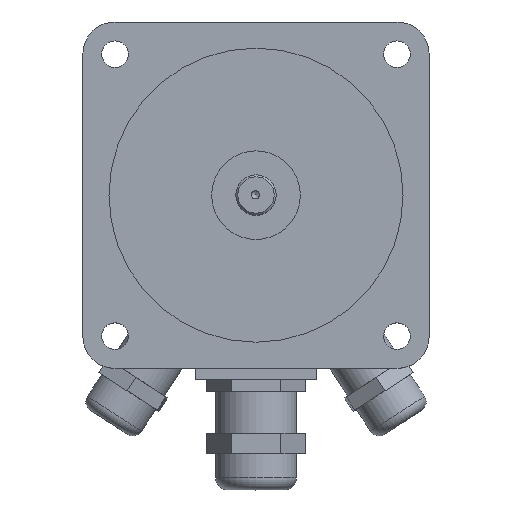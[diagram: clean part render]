
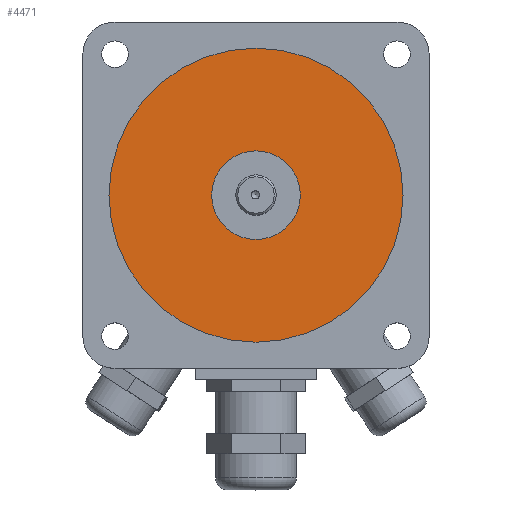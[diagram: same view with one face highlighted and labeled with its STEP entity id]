
A CAD part, top view. The second image highlights one B-rep face of the part: STEP entity #4471.
In plain terms, the highlighted planar face has unit normal (0, 0, 1).
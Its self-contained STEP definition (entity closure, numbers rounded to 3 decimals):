
#4444=CARTESIAN_POINT('',(0.0,0.0,54.5));
#4445=DIRECTION('',(0.0,0.0,-1.0));
#4446=DIRECTION('',(1.0,0.0,0.0));
#4447=AXIS2_PLACEMENT_3D('',#4444,#4445,#4446);
#4448=PLANE('',#4447);
#4449=CARTESIAN_POINT('',(-36.5,0.,54.5));
#4450=VERTEX_POINT('',#4449);
#4451=CARTESIAN_POINT('',(0.0,0.0,54.5));
#4452=DIRECTION('',(0.0,0.0,-1.0));
#4453=DIRECTION('',(1.0,0.0,0.0));
#4454=AXIS2_PLACEMENT_3D('',#4451,#4452,#4453);
#4455=CIRCLE('',#4454,36.5);
#4456=EDGE_CURVE('',#4450,#4450,#4455,.T.);
#4457=ORIENTED_EDGE('',*,*,#4456,.F.);
#4458=EDGE_LOOP('',(#4457));
#4459=FACE_OUTER_BOUND('',#4458,.T.);
#4460=CARTESIAN_POINT('',(-11.0,0.,54.5));
#4461=VERTEX_POINT('',#4460);
#4462=CARTESIAN_POINT('',(0.0,0.0,54.5));
#4463=DIRECTION('',(0.0,0.0,-1.0));
#4464=DIRECTION('',(1.0,0.0,0.0));
#4465=AXIS2_PLACEMENT_3D('',#4462,#4463,#4464);
#4466=CIRCLE('',#4465,11.0);
#4467=EDGE_CURVE('',#4461,#4461,#4466,.T.);
#4468=ORIENTED_EDGE('',*,*,#4467,.T.);
#4469=EDGE_LOOP('',(#4468));
#4470=FACE_BOUND('',#4469,.T.);
#4471=ADVANCED_FACE('',(#4459,#4470),#4448,.F.);
